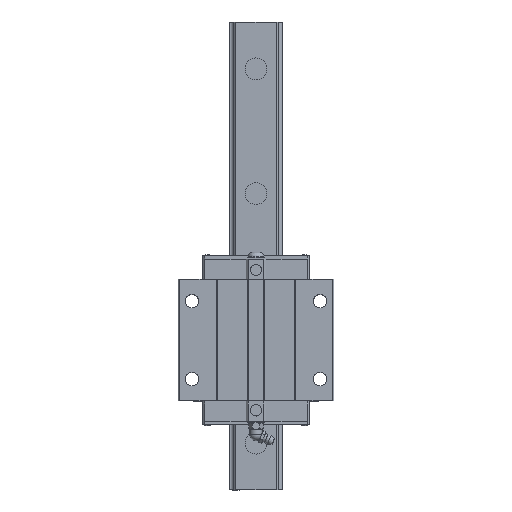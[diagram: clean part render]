
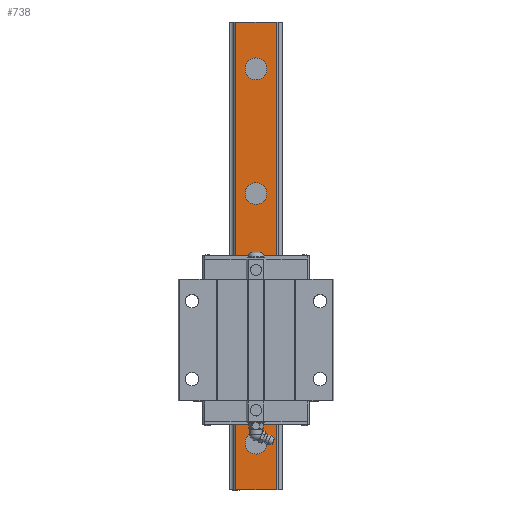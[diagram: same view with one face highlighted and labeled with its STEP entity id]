
A CAD part, top view. The second image highlights one B-rep face of the part: STEP entity #738.
In plain terms, the highlighted planar face has unit normal (0, 0, 1).
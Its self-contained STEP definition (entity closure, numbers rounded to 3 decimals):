
#738=ADVANCED_FACE('',(#2019,#2020,#2021,#2022,#2023),#2024,.T.);
#2019=FACE_BOUND('',#3341,.T.);
#2020=FACE_BOUND('',#3342,.T.);
#2021=FACE_BOUND('',#3343,.T.);
#2022=FACE_BOUND('',#3344,.T.);
#2023=FACE_OUTER_BOUND('',#3345,.T.);
#2024=PLANE('',#3346);
#3341=EDGE_LOOP('',(#8646,#8647));
#3342=EDGE_LOOP('',(#8648,#8649));
#3343=EDGE_LOOP('',(#8650,#8651));
#3344=EDGE_LOOP('',(#8652,#8653));
#3345=EDGE_LOOP('',(#8654,#8655,#8656,#8657));
#3346=AXIS2_PLACEMENT_3D('',#8658,#8659,#8660);
#8646=ORIENTED_EDGE('',*,*,#10287,.T.);
#8647=ORIENTED_EDGE('',*,*,#10579,.T.);
#8648=ORIENTED_EDGE('',*,*,#10279,.T.);
#8649=ORIENTED_EDGE('',*,*,#10582,.T.);
#8650=ORIENTED_EDGE('',*,*,#10271,.T.);
#8651=ORIENTED_EDGE('',*,*,#10585,.T.);
#8652=ORIENTED_EDGE('',*,*,#10263,.T.);
#8653=ORIENTED_EDGE('',*,*,#10588,.T.);
#8654=ORIENTED_EDGE('',*,*,#10559,.T.);
#8655=ORIENTED_EDGE('',*,*,#10612,.F.);
#8656=ORIENTED_EDGE('',*,*,#10453,.T.);
#8657=ORIENTED_EDGE('',*,*,#10611,.T.);
#8658=CARTESIAN_POINT('',(-13.042,300.0,27.5));
#8659=DIRECTION('',(0.0,0.0,1.0));
#8660=DIRECTION('',(-1.0,0.0,0.0));
#10263=EDGE_CURVE('',#12936,#12933,#12937,.T.);
#10271=EDGE_CURVE('',#12952,#12949,#12953,.T.);
#10279=EDGE_CURVE('',#12968,#12965,#12969,.T.);
#10287=EDGE_CURVE('',#12984,#12981,#12985,.T.);
#10453=EDGE_CURVE('',#13266,#13264,#13267,.T.);
#10559=EDGE_CURVE('',#13457,#13455,#13458,.T.);
#10579=EDGE_CURVE('',#12981,#12984,#13496,.T.);
#10582=EDGE_CURVE('',#12965,#12968,#13499,.T.);
#10585=EDGE_CURVE('',#12949,#12952,#13502,.T.);
#10588=EDGE_CURVE('',#12933,#12936,#13505,.T.);
#10611=EDGE_CURVE('',#13264,#13457,#13528,.T.);
#10612=EDGE_CURVE('',#13266,#13455,#13529,.T.);
#12933=VERTEX_POINT('',#18778);
#12936=VERTEX_POINT('',#18782);
#12937=CIRCLE('',#18783,7.0);
#12949=VERTEX_POINT('',#18798);
#12952=VERTEX_POINT('',#18802);
#12953=CIRCLE('',#18803,7.0);
#12965=VERTEX_POINT('',#18818);
#12968=VERTEX_POINT('',#18822);
#12969=CIRCLE('',#18823,7.0);
#12981=VERTEX_POINT('',#18838);
#12984=VERTEX_POINT('',#18842);
#12985=CIRCLE('',#18843,7.0);
#13264=VERTEX_POINT('',#19256);
#13266=VERTEX_POINT('',#19259);
#13267=LINE('',#19260,#19261);
#13455=VERTEX_POINT('',#19535);
#13457=VERTEX_POINT('',#19538);
#13458=LINE('',#19539,#19540);
#13496=CIRCLE('',#19588,7.0);
#13499=CIRCLE('',#19591,7.0);
#13502=CIRCLE('',#19594,7.0);
#13505=CIRCLE('',#19597,7.0);
#13528=LINE('',#19640,#19641);
#13529=LINE('',#19642,#19643);
#18778=CARTESIAN_POINT('',(7.0,30.0,27.5));
#18782=CARTESIAN_POINT('',(-7.0,30.0,27.5));
#18783=AXIS2_PLACEMENT_3D('',#21497,#21498,#21499);
#18798=CARTESIAN_POINT('',(7.0,110.0,27.5));
#18802=CARTESIAN_POINT('',(-7.0,110.0,27.5));
#18803=AXIS2_PLACEMENT_3D('',#21513,#21514,#21515);
#18818=CARTESIAN_POINT('',(7.0,190.0,27.5));
#18822=CARTESIAN_POINT('',(-7.0,190.0,27.5));
#18823=AXIS2_PLACEMENT_3D('',#21529,#21530,#21531);
#18838=CARTESIAN_POINT('',(7.0,270.0,27.5));
#18842=CARTESIAN_POINT('',(-7.0,270.0,27.5));
#18843=AXIS2_PLACEMENT_3D('',#21545,#21546,#21547);
#19256=CARTESIAN_POINT('',(-13.042,300.0,27.5));
#19259=CARTESIAN_POINT('',(13.042,300.0,27.5));
#19260=CARTESIAN_POINT('',(13.042,300.0,27.5));
#19261=VECTOR('',#21773,1.0);
#19535=CARTESIAN_POINT('',(13.042,0.0,27.5));
#19538=CARTESIAN_POINT('',(-13.042,0.0,27.5));
#19539=CARTESIAN_POINT('',(13.042,0.0,27.5));
#19540=VECTOR('',#21915,1.0);
#19588=AXIS2_PLACEMENT_3D('',#21953,#21954,#21955);
#19591=AXIS2_PLACEMENT_3D('',#21962,#21963,#21964);
#19594=AXIS2_PLACEMENT_3D('',#21971,#21972,#21973);
#19597=AXIS2_PLACEMENT_3D('',#21980,#21981,#21982);
#19640=CARTESIAN_POINT('',(-13.042,300.0,27.5));
#19641=VECTOR('',#22009,1.0);
#19642=CARTESIAN_POINT('',(13.042,300.0,27.5));
#19643=VECTOR('',#22010,1.0);
#21497=CARTESIAN_POINT('',(0.0,30.0,27.5));
#21498=DIRECTION('',(0.0,0.0,-1.0));
#21499=DIRECTION('',(1.0,0.0,0.0));
#21513=CARTESIAN_POINT('',(0.0,110.0,27.5));
#21514=DIRECTION('',(0.0,0.0,-1.0));
#21515=DIRECTION('',(1.0,0.0,0.0));
#21529=CARTESIAN_POINT('',(0.0,190.0,27.5));
#21530=DIRECTION('',(0.0,0.0,-1.0));
#21531=DIRECTION('',(1.0,0.0,0.0));
#21545=CARTESIAN_POINT('',(0.0,270.0,27.5));
#21546=DIRECTION('',(0.0,0.0,-1.0));
#21547=DIRECTION('',(1.0,0.0,0.0));
#21773=DIRECTION('',(-1.0,0.0,0.0));
#21915=DIRECTION('',(1.0,0.0,0.0));
#21953=CARTESIAN_POINT('',(0.0,270.0,27.5));
#21954=DIRECTION('',(0.0,0.0,-1.0));
#21955=DIRECTION('',(1.0,0.0,0.0));
#21962=CARTESIAN_POINT('',(0.0,190.0,27.5));
#21963=DIRECTION('',(0.0,0.0,-1.0));
#21964=DIRECTION('',(1.0,0.0,0.0));
#21971=CARTESIAN_POINT('',(0.0,110.0,27.5));
#21972=DIRECTION('',(0.0,0.0,-1.0));
#21973=DIRECTION('',(1.0,0.0,0.0));
#21980=CARTESIAN_POINT('',(0.0,30.0,27.5));
#21981=DIRECTION('',(0.0,0.0,-1.0));
#21982=DIRECTION('',(1.0,0.0,0.0));
#22009=DIRECTION('',(0.0,-1.0,0.0));
#22010=DIRECTION('',(0.0,-1.0,0.0));
